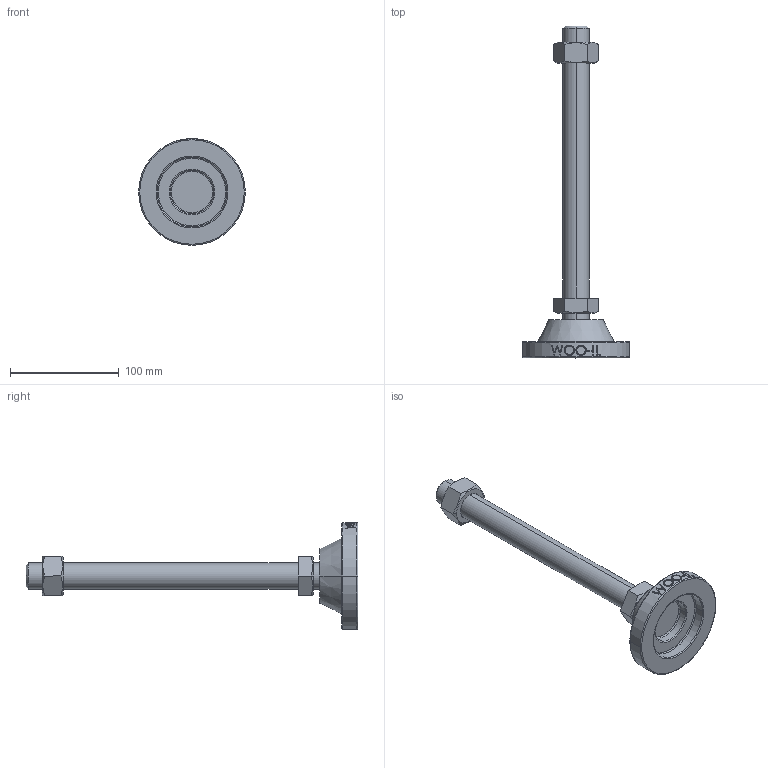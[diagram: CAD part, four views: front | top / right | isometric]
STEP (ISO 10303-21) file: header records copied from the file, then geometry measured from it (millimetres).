
FILE_DESCRIPTION (( 'STEP AP214' ), '1' );
FILE_NAME ('MFN98-M24-250.step', '2021-01-21T06:14:59', ( '' ), ( '' ), 'SwSTEP 2.0', 'SolidWorks 2019', '' );
FILE_SCHEMA (( 'AUTOMOTIVE_DESIGN' ));
Length unit declared in the file: millimetre
Products named in the file (2): MFN98-M24-250
Bounding box: 98 x 305 x 98 mm (x, y, z)
Volume: 270724.6 mm3; surface area: 51754.7 mm2
Topology: 2 solids, 2 shells, 111 faces, 255 edges, 162 vertices
Faces by surface type: plane 49, cylinder 20, bspline 16, cone 14, torus 12
Entity records: 4759 total; most frequent: CARTESIAN_POINT 2298, ORIENTED_EDGE 510, DIRECTION 471, EDGE_CURVE 255, AXIS2_PLACEMENT_3D 185, VERTEX_POINT 162, EDGE_LOOP 127, FACE_OUTER_BOUND 111
